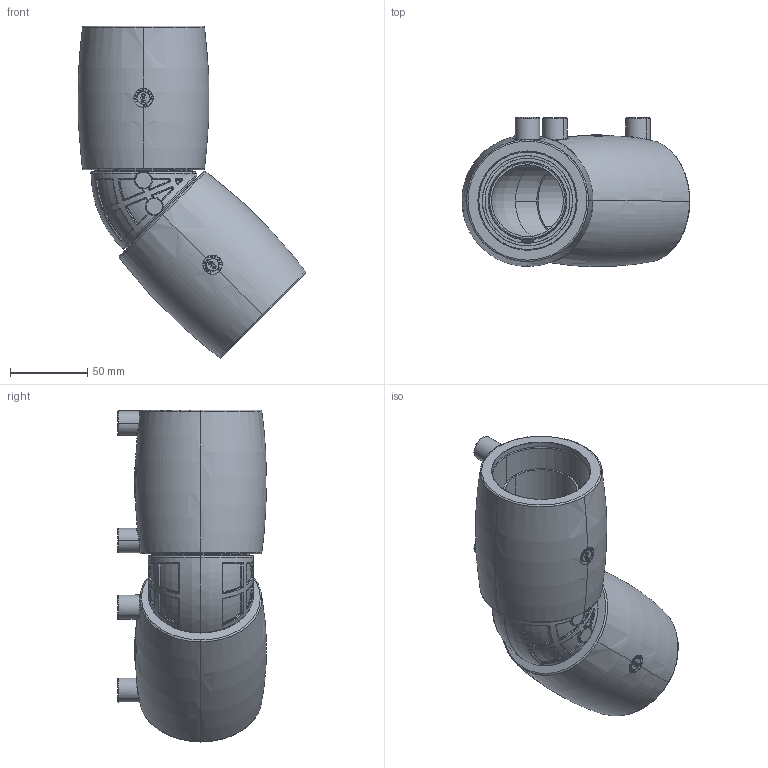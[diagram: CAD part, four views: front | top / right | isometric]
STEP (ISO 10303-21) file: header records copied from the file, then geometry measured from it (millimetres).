
FILE_DESCRIPTION (( 'STEP AP214' ), '1' );
FILE_NAME ('KP_24-63EC.STEP', '2012-12-14T11:12:00', ( '' ), ( '' ), 'SwSTEP 2.0', 'SolidWorks 2012', '' );
FILE_SCHEMA (( 'AUTOMOTIVE_DESIGN' ));
Length unit declared in the file: millimetre
Products named in the file (1): KP_24-63EC
Bounding box: 147.49 x 96.34 x 214.95 mm (x, y, z)
Volume: 608994.5 mm3; surface area: 152823.5 mm2
Topology: 3 solids, 15 shells, 3516 faces, 9595 edges, 6193 vertices
Faces by surface type: plane 2544, bspline 360, cylinder 254, torus 211, cone 81, sphere 66
Entity records: 131249 total; most frequent: CARTESIAN_POINT 37917, ORIENTED_EDGE 19042, DIRECTION 15578, EDGE_CURVE 9521, LINE 7012, VECTOR 7012, VERTEX_POINT 6173, AXIS2_PLACEMENT_3D 4283
